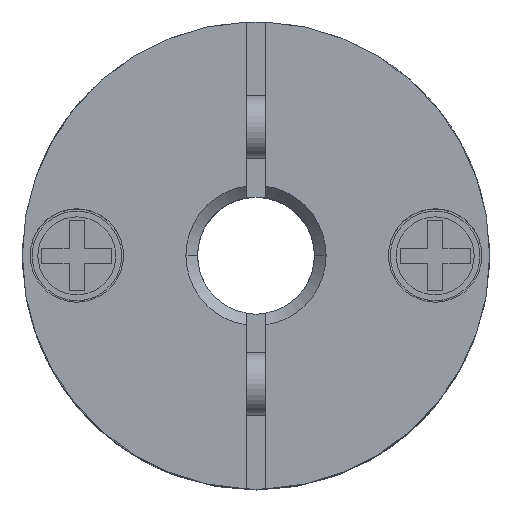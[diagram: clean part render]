
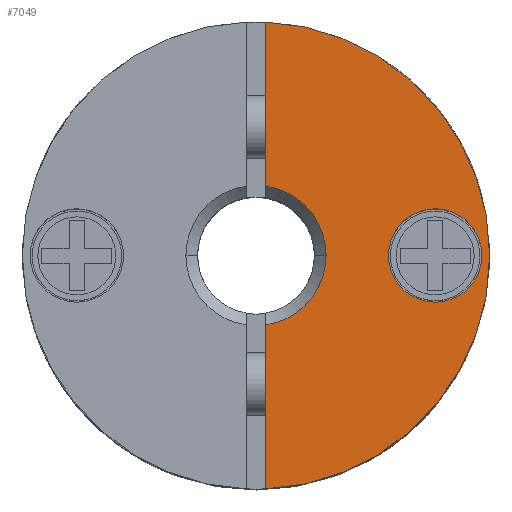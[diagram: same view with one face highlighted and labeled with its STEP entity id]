
A CAD part, top view. The second image highlights one B-rep face of the part: STEP entity #7049.
In plain terms, the highlighted planar face has unit normal (0, 0, 1).
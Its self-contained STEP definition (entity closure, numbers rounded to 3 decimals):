
#893=CARTESIAN_POINT('',(6.0,0.,6.2));
#894=VERTEX_POINT('',#893);
#901=CARTESIAN_POINT('',(0.25,-5.995,6.2));
#902=VERTEX_POINT('',#901);
#903=CARTESIAN_POINT('',(0.,0.,6.2));
#904=DIRECTION('',(0.0,0.0,-1.0));
#905=DIRECTION('',(-1.0,0.0,0.0));
#906=AXIS2_PLACEMENT_3D('',#903,#904,#905);
#907=CIRCLE('',#906,6.0);
#908=EDGE_CURVE('',#894,#902,#907,.T.);
#1104=CARTESIAN_POINT('',(1.8,0.,6.2));
#1105=VERTEX_POINT('',#1104);
#1113=CARTESIAN_POINT('',(0.25,-1.783,6.2));
#1114=VERTEX_POINT('',#1113);
#1128=CARTESIAN_POINT('',(0.,0.,6.2));
#1129=DIRECTION('',(0.0,0.0,1.0));
#1130=DIRECTION('',(1.0,0.0,0.0));
#1131=AXIS2_PLACEMENT_3D('',#1128,#1129,#1130);
#1132=CIRCLE('',#1131,1.8);
#1133=EDGE_CURVE('',#1114,#1105,#1132,.T.);
#1185=CARTESIAN_POINT('',(3.4,0.,6.2));
#1186=VERTEX_POINT('',#1185);
#1195=CARTESIAN_POINT('',(5.8,0.,6.2));
#1196=VERTEX_POINT('',#1195);
#1197=CARTESIAN_POINT('',(4.6,0.,6.2));
#1198=DIRECTION('',(0.0,0.0,-1.0));
#1199=DIRECTION('',(-1.0,0.0,0.0));
#1200=AXIS2_PLACEMENT_3D('',#1197,#1198,#1199);
#1201=CIRCLE('',#1200,1.2);
#1202=EDGE_CURVE('',#1196,#1186,#1201,.T.);
#6718=CARTESIAN_POINT('',(4.6,0.,6.2));
#6719=DIRECTION('',(0.0,0.0,-1.0));
#6720=DIRECTION('',(-1.0,0.0,0.0));
#6721=AXIS2_PLACEMENT_3D('',#6718,#6719,#6720);
#6722=CIRCLE('',#6721,1.2);
#6723=EDGE_CURVE('',#1186,#1196,#6722,.T.);
#6785=CARTESIAN_POINT('',(0.25,-1.783,6.2));
#6786=DIRECTION('',(0.0,-1.0,0.0));
#6787=VECTOR('',#6786,4.212);
#6788=LINE('',#6785,#6787);
#6789=EDGE_CURVE('',#1114,#902,#6788,.T.);
#6882=CARTESIAN_POINT('',(0.25,1.783,6.2));
#6883=VERTEX_POINT('',#6882);
#6897=CARTESIAN_POINT('',(0.25,5.995,6.2));
#6898=VERTEX_POINT('',#6897);
#6899=CARTESIAN_POINT('',(0.25,5.995,6.2));
#6900=DIRECTION('',(0.0,-1.0,0.0));
#6901=VECTOR('',#6900,4.212);
#6902=LINE('',#6899,#6901);
#6903=EDGE_CURVE('',#6898,#6883,#6902,.T.);
#7020=CARTESIAN_POINT('',(-0.545,0.,6.2));
#7021=DIRECTION('',(0.0,0.0,1.0));
#7022=DIRECTION('',(-1.0,0.0,0.0));
#7023=AXIS2_PLACEMENT_3D('',#7020,#7021,#7022);
#7024=PLANE('',#7023);
#7025=ORIENTED_EDGE('',*,*,#6903,.T.);
#7026=CARTESIAN_POINT('',(0.,0.,6.2));
#7027=DIRECTION('',(0.0,0.0,1.0));
#7028=DIRECTION('',(1.0,0.0,0.0));
#7029=AXIS2_PLACEMENT_3D('',#7026,#7027,#7028);
#7030=CIRCLE('',#7029,1.8);
#7031=EDGE_CURVE('',#1105,#6883,#7030,.T.);
#7032=ORIENTED_EDGE('',*,*,#7031,.F.);
#7033=ORIENTED_EDGE('',*,*,#1133,.F.);
#7034=ORIENTED_EDGE('',*,*,#6789,.T.);
#7035=ORIENTED_EDGE('',*,*,#908,.F.);
#7036=CARTESIAN_POINT('',(0.,0.,6.2));
#7037=DIRECTION('',(0.0,0.0,-1.0));
#7038=DIRECTION('',(-1.0,0.0,0.0));
#7039=AXIS2_PLACEMENT_3D('',#7036,#7037,#7038);
#7040=CIRCLE('',#7039,6.0);
#7041=EDGE_CURVE('',#6898,#894,#7040,.T.);
#7042=ORIENTED_EDGE('',*,*,#7041,.F.);
#7043=EDGE_LOOP('',(#7025,#7032,#7033,#7034,#7035,#7042));
#7044=FACE_OUTER_BOUND('',#7043,.T.);
#7045=ORIENTED_EDGE('',*,*,#6723,.T.);
#7046=ORIENTED_EDGE('',*,*,#1202,.T.);
#7047=EDGE_LOOP('',(#7045,#7046));
#7048=FACE_BOUND('',#7047,.T.);
#7049=ADVANCED_FACE('',(#7044,#7048),#7024,.T.);
